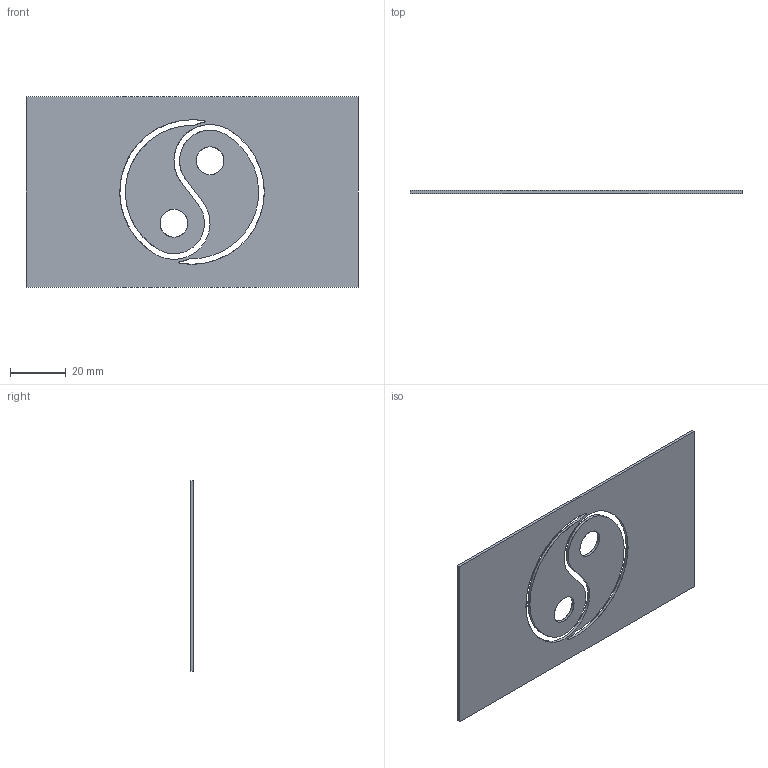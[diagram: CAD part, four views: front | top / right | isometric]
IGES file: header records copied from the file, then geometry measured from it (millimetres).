
Start section: SolidWorks IGES file using analytic representation for surfaces
Global section: file name: C:\TEMP\Neuer Ordner\03-0037 Idee 12.IGS; native system: SolidWorks 2006 by SolidWorks Corporation; preprocessor: SolidWorks 2006 by SolidWorks Corporation; author: hobein; date: 070323.081333; units: millimetre
Bounding box: 119.51 x 1 x 68.45 mm (x, y, z)
Surface area: 16068.4 mm2 (no closed solid volume)
Topology: 0 solids, 0 shells, 31 faces, 612 edges, 612 vertices
Faces by surface type: revolution 23, bspline 8
